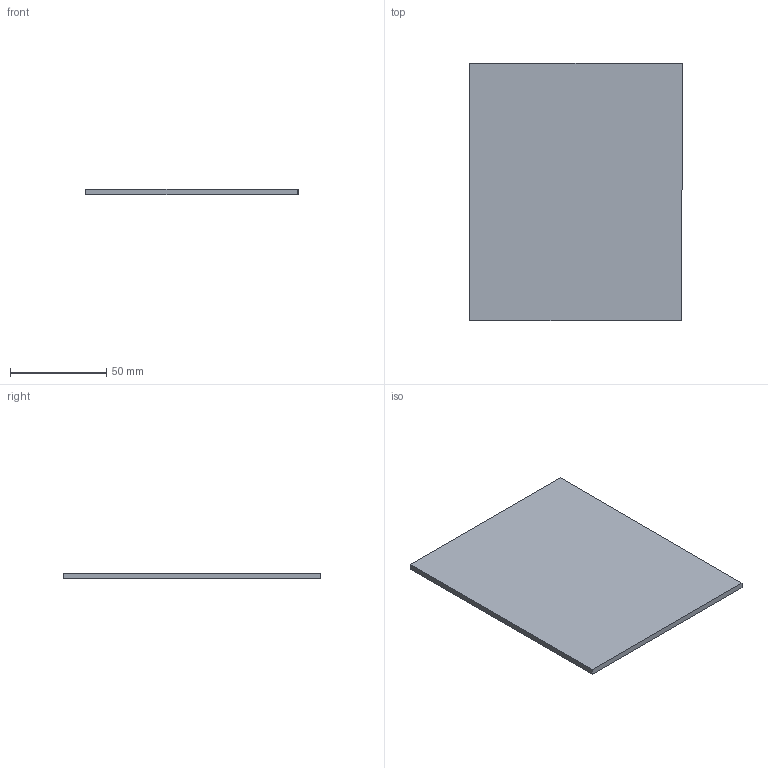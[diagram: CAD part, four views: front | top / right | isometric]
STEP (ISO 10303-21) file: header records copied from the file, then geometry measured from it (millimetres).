
FILE_DESCRIPTION(('Open CASCADE Model'),'2;1');
FILE_NAME('Open CASCADE Shape Model','2026-11-03T04:29:35',('Author'),( 'Open CASCADE'),'Open CASCADE STEP processor 7.8','Open CASCADE 7.8' ,'Unknown');
FILE_SCHEMA(('AUTOMOTIVE_DESIGN { 1 0 10303 214 1 1 1 1 }'));
Length unit declared in the file: millimetre
Products named in the file (1): Open CASCADE STEP translator 7.8 26
Bounding box: 110.7 x 134 x 3 mm (x, y, z)
Volume: 44421 mm3; surface area: 31081 mm2
Topology: 1 solids, 1 shells, 6 faces, 12 edges, 8 vertices
Faces by surface type: plane 6
Entity records: 322 total; most frequent: CARTESIAN_POINT 51, DIRECTION 50, LINE 36, VECTOR 36, ORIENTED_EDGE 24, PCURVE 24, DEFINITIONAL_REPRESENTATION 24, EDGE_CURVE 12
